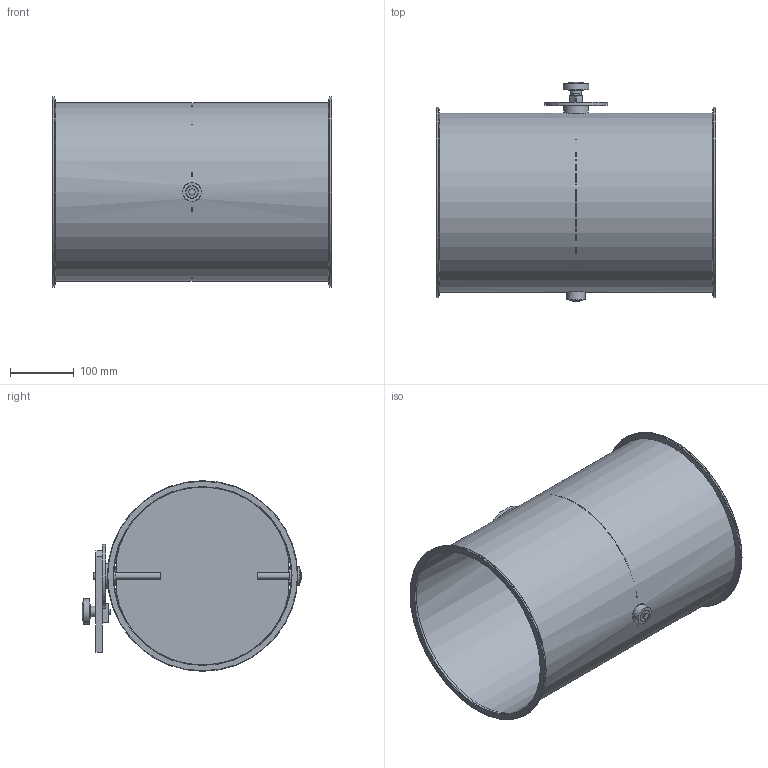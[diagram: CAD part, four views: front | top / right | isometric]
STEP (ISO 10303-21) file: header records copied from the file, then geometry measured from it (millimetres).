
FILE_DESCRIPTION(/* description */ (''),/* implementation_level */ '2;1');
FILE_NAME(/* name */ 'METU_Drosselklappe_Flansch_verzinkt_EA104-80B__280_L440_handbetaetigt.stp',/* time_stamp */ '2022-04-22T14:45:44+02:00',/* author */ (''),/* organization */ (''),/* preprocessor_version */ 'ST-DEVELOPER v11',/* originating_system */ 'SIEMENS UGS NX 6.0',/* authorisation */ '');
FILE_SCHEMA (('CONFIG_CONTROL_DESIGN'));
Length unit declared in the file: millimetre
Products named in the file (1): d.ga332Aq991
Bounding box: 440 x 345.31 x 300 mm (x, y, z)
Volume: 577171.3 mm3; surface area: 982057.6 mm2
Topology: 12 solids, 12 shells, 85 faces, 172 edges, 116 vertices
Faces by surface type: plane 40, cylinder 35, torus 6, cone 2, sphere 2
Full cylindrical faces by diameter (mm): 4.4 x5, 6.8 x1, 8 x1, 9 x1, 10 x5, 16.5 x1, 19 x3, 19.85 x2, 20 x2, 29 x1, 30 x2, 35 x1, 39 x1, 40 x1, 100 x1, 280 x1, 281.6 x1, 300 x2
Entity records: 2112 total; most frequent: CARTESIAN_POINT 374, DIRECTION 358, ORIENTED_EDGE 236, EDGE_LOOP 162, AXIS2_PLACEMENT_3D 158, FACE_BOUND 140, EDGE_CURVE 118, VERTEX_POINT 102
